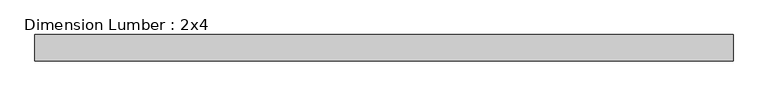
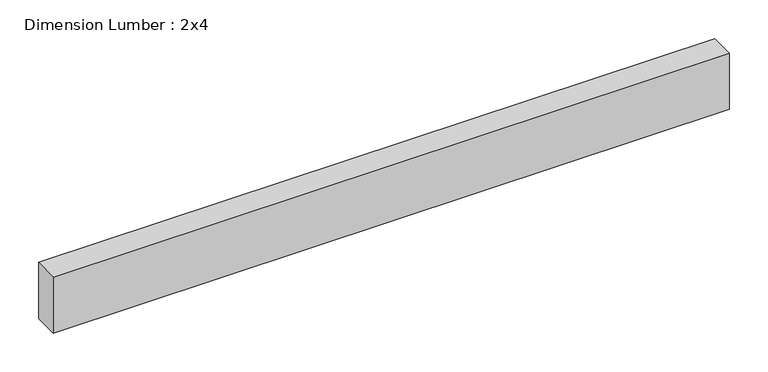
"""IFC4 building model written with IfcOpenShell, lengths in millimetres: beam geometry, Dimension Lumber : 2x4."""

import ifcopenshell
import ifcopenshell.guid

model = None  # the IFC model being written
_history = None  # IfcOwnerHistory: only IFC2X3 demands one
_inside = {}  # id of a spatial element -> (the spatial element, [elements in it])
_under = {}  # id of a project, library or spatial element -> (it, [spatial elements below it])
_declared = {}  # id of a project -> (the project, [libraries it declares])
_typed = {}  # id of a type object -> (the type object, [elements of that type])
_made_of = {}  # id of a material, layer set ... -> (it, [elements and type objects made of it])


def new_model(schema):
    """Start an empty IFC model of exactly this schema.

    Asked for "IFC4X3", IfcOpenShell would pick the latest addendum, in which some entities
    have other attributes; the version numbers below select the first issue.
    IFC2X3 requires an IfcOwnerHistory on every rooted entity: one is made here for all.
    """
    global model, _history
    if schema == "IFC4X3":
        model = ifcopenshell.file(schema_version=(4, 3, 0, 0))
    else:
        model = ifcopenshell.file(schema=schema)
    _inside.clear()
    _under.clear()
    _declared.clear()
    _typed.clear()
    _made_of.clear()
    _history = None
    if model.schema == "IFC2X3":
        org = make("IfcOrganization", Name="unknown")
        user = make(
            "IfcPersonAndOrganization",
            ThePerson=make("IfcPerson", FamilyName="unknown"),
            TheOrganization=org,
        )
        app = make(
            "IfcApplication",
            ApplicationDeveloper=org,
            Version="unknown",
            ApplicationFullName="unknown",
            ApplicationIdentifier="unknown",
        )
        _history = make(
            "IfcOwnerHistory",
            OwningUser=user,
            OwningApplication=app,
            ChangeAction="ADDED",
            CreationDate=0,
        )
    return model


def make(cls, **values):
    """One entity of the class cls with the attributes given. An attribute that is None is left unset."""
    return model.create_entity(
        cls, **{name: value for name, value in values.items() if value is not None}
    )


def rooted(cls, **values):
    """An entity with a GlobalId (a new one), such as an element, a storey or a relation."""
    return make(cls, GlobalId=ifcopenshell.guid.new(), OwnerHistory=_history, **values)


def si_unit(unit_type, name, prefix=None):
    """IfcSIUnit, for example si_unit("LENGTHUNIT", "METRE", prefix="MILLI")."""
    return make("IfcSIUnit", UnitType=unit_type, Prefix=prefix, Name=name)


def assignment(units):
    """IfcUnitAssignment: the units of a project."""
    return None if units is None else make("IfcUnitAssignment", Units=units)


def point(xyz):
    """IfcCartesianPoint."""
    return None if xyz is None else make("IfcCartesianPoint", Coordinates=xyz)


def direction(xyz):
    """IfcDirection."""
    return None if xyz is None else make("IfcDirection", DirectionRatios=xyz)


def frame(location, z_axis=None, x_axis=None):
    """IfcAxis2Placement3D, a coordinate frame: its origin and axes. An axis left out is left unset."""
    return make(
        "IfcAxis2Placement3D",
        Location=point(location),
        Axis=direction(z_axis),
        RefDirection=direction(x_axis),
    )


def origin():
    """The frame at (0, 0, 0) with its axes left unset."""
    return frame((0.0, 0.0, 0.0))


def place(relative_to, where):
    """IfcLocalPlacement: puts the frame where relative to a parent placement (None: the world)."""
    return make(
        "IfcLocalPlacement", PlacementRelTo=relative_to, RelativePlacement=where
    )


def context(
    kind, dimensions, precision=None, world=None, true_north=None, identifier=None
):
    """IfcGeometricRepresentationContext, for example the 3D "Model" context."""
    return make(
        "IfcGeometricRepresentationContext",
        ContextIdentifier=identifier,
        ContextType=kind,
        CoordinateSpaceDimension=dimensions,
        Precision=precision,
        WorldCoordinateSystem=world,
        TrueNorth=true_north,
    )


def project(units=None, contexts=None):
    """IfcProject with its units and contexts."""
    return rooted(
        "IfcProject",
        Name="project",
        RepresentationContexts=contexts,
        UnitsInContext=assignment(units),
    )


def spatial(cls, under=None, at=None, **own):
    """A site, building, storey or space (cls), placed at a placement, below another one or the project."""
    s = rooted(cls, ObjectPlacement=at, **own)
    if under is not None:
        _under.setdefault(under.id(), (under, []))[1].append(s)
    return s


def polyline(points):
    """IfcPolyline through the points."""
    return make("IfcPolyline", Points=[point(p) for p in points])


def outline(outer, holes=None, kind="AREA"):
    """IfcArbitraryClosedProfileDef: a profile drawn as a closed curve; with holes, ...WithVoids."""
    if holes is None:
        return make("IfcArbitraryClosedProfileDef", ProfileType=kind, OuterCurve=outer)
    return make(
        "IfcArbitraryProfileDefWithVoids",
        ProfileType=kind,
        OuterCurve=outer,
        InnerCurves=holes,
    )


def extrude(swept, where, along, depth):
    """IfcExtrudedAreaSolid: the profile swept, set in the frame where, extruded along a direction by depth."""
    return make(
        "IfcExtrudedAreaSolid",
        SweptArea=swept,
        Position=where,
        ExtrudedDirection=direction(along),
        Depth=depth,
    )


def shape(context_of_items, identifier, shape_type, items):
    """IfcShapeRepresentation: the items that make up one representation, for example the "Body"."""
    return make(
        "IfcShapeRepresentation",
        ContextOfItems=context_of_items,
        RepresentationIdentifier=identifier,
        RepresentationType=shape_type,
        Items=items,
    )


def source(mapping_origin, context_of_items, identifier, shape_type, items):
    """IfcRepresentationMap: a shape defined once, which mapped items show again and again."""
    return make(
        "IfcRepresentationMap",
        MappingOrigin=mapping_origin,
        MappedRepresentation=shape(context_of_items, identifier, shape_type, items),
    )


def transform(
    local_origin,
    x_axis=None,
    y_axis=None,
    z_axis=None,
    scale=None,
    scale2=None,
    scale3=None,
    uniform=True,
):
    """IfcCartesianTransformationOperator3D, or its non-uniform kind. x_axis, y_axis, z_axis: its Axis1, 2, 3."""
    if uniform:
        return make(
            "IfcCartesianTransformationOperator3D",
            Axis1=direction(x_axis),
            Axis2=direction(y_axis),
            LocalOrigin=point(local_origin),
            Scale=scale,
            Axis3=direction(z_axis),
        )
    return make(
        "IfcCartesianTransformationOperator3DnonUniform",
        Axis1=direction(x_axis),
        Axis2=direction(y_axis),
        LocalOrigin=point(local_origin),
        Scale=scale,
        Axis3=direction(z_axis),
        Scale2=scale2,
        Scale3=scale3,
    )


def mapped(mapping_source, mapping_target):
    """IfcMappedItem: shows the shape of a source again, moved by a transform."""
    return make(
        "IfcMappedItem", MappingSource=mapping_source, MappingTarget=mapping_target
    )


def made_of(thing, what):
    """Note that an element or type object is made of a material, layer set ...; save() writes the relation."""
    if what is not None:
        _made_of.setdefault(what.id(), (what, []))[1].append(thing)
    return thing


def element(
    cls,
    number,
    at=None,
    inside=None,
    cuts=None,
    type_object=None,
    material=None,
    context=None,
    identifier="Body",
    shape_type=None,
    held_by="IfcProductDefinitionShape",
    body=None,
    shapes=None,
    **own,
):
    """One element of the class cls, such as IfcWall. Its Tag is "e" and its number.

    at: its placement. inside: the storey or other place that contains it. cuts: it is an
    opening in that element (IfcRelVoidsElement). A single representation is given by context,
    identifier, shape_type and body (its items); several are given by shapes. held_by: the class
    of the entity that holds the representations. save() writes the other relations.
    """
    e = rooted(cls, Tag="e%d" % number, ObjectPlacement=at, **own)
    if body is not None:
        shapes = [shape(context, identifier, shape_type, body)]
    if shapes is not None:
        e.Representation = make(held_by, Representations=shapes)
    if inside is not None:
        _inside.setdefault(inside.id(), (inside, []))[1].append(e)
    if cuts is not None:
        rooted(
            "IfcRelVoidsElement", RelatingBuildingElement=cuts, RelatedOpeningElement=e
        )
    if type_object is not None:
        _typed.setdefault(type_object.id(), (type_object, []))[1].append(e)
    return made_of(e, material)


def aggregate(whole, parts):
    """IfcRelAggregates: a whole, such as a stair, and the parts it consists of."""
    return rooted("IfcRelAggregates", RelatingObject=whole, RelatedObjects=parts)


def save(model, path):
    """Write the relations noted so far, then the file.

    IfcRelAggregates (storeys below a building ...), IfcRelContainedInSpatialStructure (elements
    in a storey), IfcRelDefinesByType, IfcRelAssociatesMaterial and IfcRelDeclares: one each for
    every whole, place, type object, material and project.
    """
    for whole, parts in _under.values():
        aggregate(whole, parts)
    for where, things in _inside.values():
        rooted(
            "IfcRelContainedInSpatialStructure",
            RelatedElements=things,
            RelatingStructure=where,
        )
    for kind, things in _typed.values():
        rooted("IfcRelDefinesByType", RelatedObjects=things, RelatingType=kind)
    for what, things in _made_of.values():
        rooted("IfcRelAssociatesMaterial", RelatedObjects=things, RelatingMaterial=what)
    for by, libraries in _declared.values():
        rooted("IfcRelDeclares", RelatingContext=by, RelatedDefinitions=libraries)
    model.write(path)


def dimension_lumber_2x4_8edaa16b(model_context):
    return source(origin(), model_context, "Body", "SweptSolid", [
        extrude(outline(polyline([(506.3026675, 19.05), (506.3026675, -19.05), (-506.3026675, -19.05), (-506.3026675, 19.05), (506.3026675, 19.05)])), frame((0.0, 0.0, -44.45), z_axis=(0.0, 0.0, 1.0), x_axis=(1.0, 0.0, 0.0)), (0.0, 0.0, 1.0), 88.9),
    ])


if __name__ == "__main__":
    model = new_model("IFC4")
    model_context = context("Model", 3, world=origin())
    ifc_project = project(units=[si_unit("LENGTHUNIT", "METRE", prefix="MILLI")], contexts=[model_context])
    site = spatial("IfcSite", under=ifc_project)
    building = spatial("IfcBuilding", under=site)
    placement = place(None, origin())
    dimension_lumber_2x4_shape = dimension_lumber_2x4_8edaa16b(model_context)
    element("IfcBeam", 1, ObjectType="Dimension Lumber : 2x4", at=placement, inside=building, context=model_context, shape_type="MappedRepresentation", body=[
        mapped(dimension_lumber_2x4_shape, transform((0.0, 0.0, 0.0), x_axis=(1.0, 0.0, 0.0), y_axis=(0.0, 1.0, 0.0), z_axis=(0.0, 0.0, 1.0))),
    ])
    save(model, "model.ifc")
